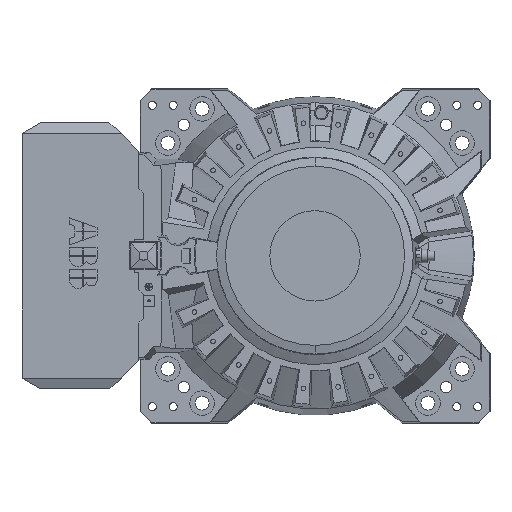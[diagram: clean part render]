
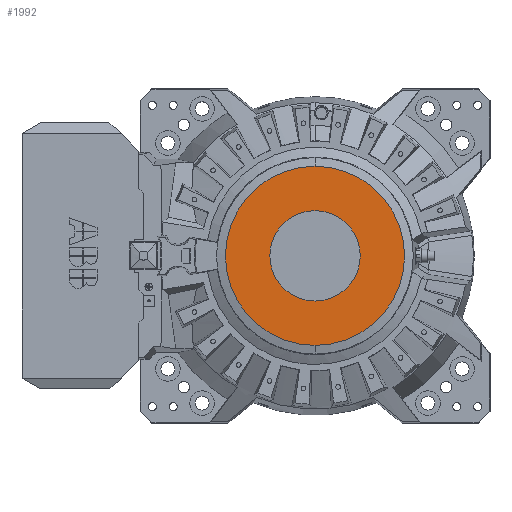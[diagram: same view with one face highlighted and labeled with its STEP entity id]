
A CAD part, top view. The second image highlights one B-rep face of the part: STEP entity #1992.
In plain terms, the highlighted planar face has unit normal (0, 0, 1).
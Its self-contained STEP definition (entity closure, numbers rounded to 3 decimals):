
#251 = FACE_OUTER_BOUND ( 'NONE', #1193, .T. ) ;
#259 = FACE_BOUND ( 'NONE', #1195, .T. ) ;
#436 = CIRCLE ( 'NONE', #19030, 97.5 ) ;
#438 = CIRCLE ( 'NONE', #19028, 193.23 ) ;
#1193 = EDGE_LOOP ( 'NONE', ( #32131, #32130 ) ) ;
#1195 = EDGE_LOOP ( 'NONE', ( #32129, #32128 ) ) ;
#1992 = ADVANCED_FACE ( 'NONE', ( #251, #259 ), #10487, .T. ) ;
#4755 = EDGE_CURVE ( 'NONE', #31802, #31798, #438, .T. ) ;
#4757 = EDGE_CURVE ( 'NONE', #31663, #31659, #436, .T. ) ;
#5700 = EDGE_CURVE ( 'NONE', #31659, #31663, #18379, .T. ) ;
#7199 = EDGE_CURVE ( 'NONE', #31798, #31802, #29719, .T. ) ;
#10484 = CARTESIAN_POINT ( 'NONE',  ( 98.3, 0., 215. ) ) ;
#10487 = PLANE ( 'NONE',  #18695 ) ;
#10489 = DIRECTION ( 'NONE',  ( 0., 0., 1. ) ) ;
#10490 = DIRECTION ( 'NONE',  ( -1., 0., 0. ) ) ;
#11536 = CARTESIAN_POINT ( 'NONE',  ( 0., 0., 215. ) ) ;
#11537 = DIRECTION ( 'NONE',  ( 0., 0., -1. ) ) ;
#11538 = DIRECTION ( 'NONE',  ( -1., 0., 0. ) ) ;
#11539 = CARTESIAN_POINT ( 'NONE',  ( 0., 0., 215. ) ) ;
#11540 = DIRECTION ( 'NONE',  ( 0., 0., 1. ) ) ;
#11541 = DIRECTION ( 'NONE',  ( -1., 0., 0. ) ) ;
#12265 = AXIS2_PLACEMENT_3D ( 'NONE', #15099, #15100, #15101 ) ;
#15099 = CARTESIAN_POINT ( 'NONE',  ( 0., 0., 215. ) ) ;
#15100 = DIRECTION ( 'NONE',  ( 0., 0., -1. ) ) ;
#15101 = DIRECTION ( 'NONE',  ( -1., 0., 0. ) ) ;
#17724 = CARTESIAN_POINT ( 'NONE',  ( -97.5, 0., 215. ) ) ;
#17728 = CARTESIAN_POINT ( 'NONE',  ( 97.5, 0., 215. ) ) ;
#17863 = CARTESIAN_POINT ( 'NONE',  ( 0., 193.23, 215. ) ) ;
#17867 = CARTESIAN_POINT ( 'NONE',  ( 0., -193.23, 215. ) ) ;
#18379 = CIRCLE ( 'NONE', #19228, 97.5 ) ;
#18695 = AXIS2_PLACEMENT_3D ( 'NONE', #10484, #10489, #10490 ) ;
#19028 = AXIS2_PLACEMENT_3D ( 'NONE', #11536, #11537, #11538 ) ;
#19030 = AXIS2_PLACEMENT_3D ( 'NONE', #11539, #11540, #11541 ) ;
#19228 = AXIS2_PLACEMENT_3D ( 'NONE', #21473, #21474, #21475 ) ;
#21473 = CARTESIAN_POINT ( 'NONE',  ( 0., 0., 215. ) ) ;
#21474 = DIRECTION ( 'NONE',  ( 0., 0., 1. ) ) ;
#21475 = DIRECTION ( 'NONE',  ( -1., 0., 0. ) ) ;
#29719 = CIRCLE ( 'NONE', #12265, 193.23 ) ;
#31659 = VERTEX_POINT ( 'NONE', #17724 ) ;
#31663 = VERTEX_POINT ( 'NONE', #17728 ) ;
#31798 = VERTEX_POINT ( 'NONE', #17863 ) ;
#31802 = VERTEX_POINT ( 'NONE', #17867 ) ;
#32128 = ORIENTED_EDGE ( 'NONE', *, *, #4757, .F. ) ;
#32129 = ORIENTED_EDGE ( 'NONE', *, *, #5700, .F. ) ;
#32130 = ORIENTED_EDGE ( 'NONE', *, *, #4755, .F. ) ;
#32131 = ORIENTED_EDGE ( 'NONE', *, *, #7199, .F. ) ;
